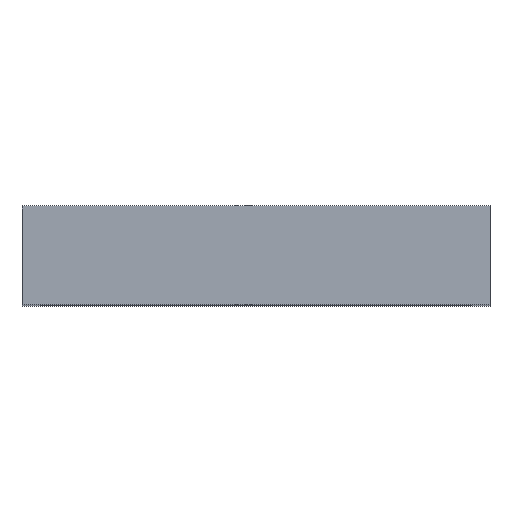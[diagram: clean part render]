
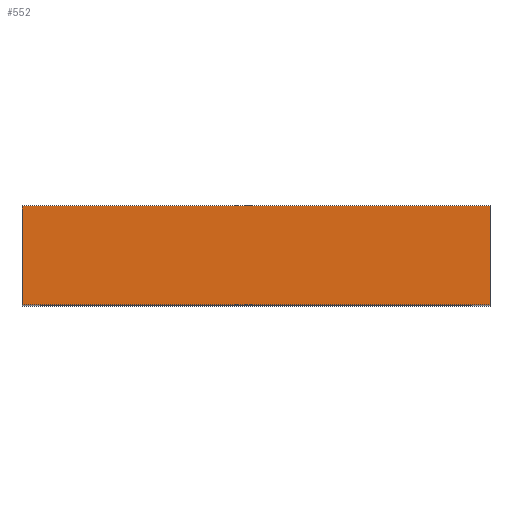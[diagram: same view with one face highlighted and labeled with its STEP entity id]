
A CAD part, top view. The second image highlights one B-rep face of the part: STEP entity #552.
In plain terms, the highlighted planar face has unit normal (0, 0, 1).
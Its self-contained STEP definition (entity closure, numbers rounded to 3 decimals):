
#28 = EDGE_CURVE ( 'NONE', #140, #147, #659, .T. ) ;
#40 = EDGE_CURVE ( 'NONE', #137, #140, #904, .T. ) ;
#42 = EDGE_CURVE ( 'NONE', #137, #143, #626, .T. ) ;
#109 = EDGE_CURVE ( 'NONE', #143, #147, #571, .T. ) ;
#123 = AXIS2_PLACEMENT_3D ( 'NONE', #463, #469, #470 ) ;
#137 = VERTEX_POINT ( 'NONE', #323 ) ;
#140 = VERTEX_POINT ( 'NONE', #348 ) ;
#143 = VERTEX_POINT ( 'NONE', #354 ) ;
#147 = VERTEX_POINT ( 'NONE', #357 ) ;
#218 = DIRECTION ( 'NONE',  ( 0., -1., 0. ) ) ;
#219 = CARTESIAN_POINT ( 'NONE',  ( 154., 65., 239.5 ) ) ;
#237 = CARTESIAN_POINT ( 'NONE',  ( -154., 65., 239.5 ) ) ;
#239 = CARTESIAN_POINT ( 'NONE',  ( -154., 65., 239.5 ) ) ;
#240 = DIRECTION ( 'NONE',  ( 1., 0., 0. ) ) ;
#242 = DIRECTION ( 'NONE',  ( 0., -1., 0. ) ) ;
#319 = CARTESIAN_POINT ( 'NONE',  ( -154., 0., 239.5 ) ) ;
#320 = DIRECTION ( 'NONE',  ( 1., 0., 0. ) ) ;
#323 = CARTESIAN_POINT ( 'NONE',  ( -154., 65., 239.5 ) ) ;
#348 = CARTESIAN_POINT ( 'NONE',  ( 154., 65., 239.5 ) ) ;
#354 = CARTESIAN_POINT ( 'NONE',  ( -154., 0., 239.5 ) ) ;
#357 = CARTESIAN_POINT ( 'NONE',  ( 154., 0., 239.5 ) ) ;
#452 = PLANE ( 'NONE',  #123 ) ;
#463 = CARTESIAN_POINT ( 'NONE',  ( -154., 65., 239.5 ) ) ;
#469 = DIRECTION ( 'NONE',  ( 0., 0., -1. ) ) ;
#470 = DIRECTION ( 'NONE',  ( -1., 0., 0. ) ) ;
#552 = ADVANCED_FACE ( 'NONE', ( #884 ), #452, .F. ) ;
#570 = VECTOR ( 'NONE', #320, 1000. ) ;
#571 = LINE ( 'NONE', #319, #570 ) ;
#621 = VECTOR ( 'NONE', #242, 1000. ) ;
#622 = VECTOR ( 'NONE', #240, 1000. ) ;
#626 = LINE ( 'NONE', #237, #621 ) ;
#651 = VECTOR ( 'NONE', #218, 1000. ) ;
#659 = LINE ( 'NONE', #219, #651 ) ;
#684 = ORIENTED_EDGE ( 'NONE', *, *, #109, .T. ) ;
#742 = EDGE_LOOP ( 'NONE', ( #684, #764, #751, #756 ) ) ;
#751 = ORIENTED_EDGE ( 'NONE', *, *, #40, .F. ) ;
#756 = ORIENTED_EDGE ( 'NONE', *, *, #42, .T. ) ;
#764 = ORIENTED_EDGE ( 'NONE', *, *, #28, .F. ) ;
#884 = FACE_OUTER_BOUND ( 'NONE', #742, .T. ) ;
#904 = LINE ( 'NONE', #239, #622 ) ;
